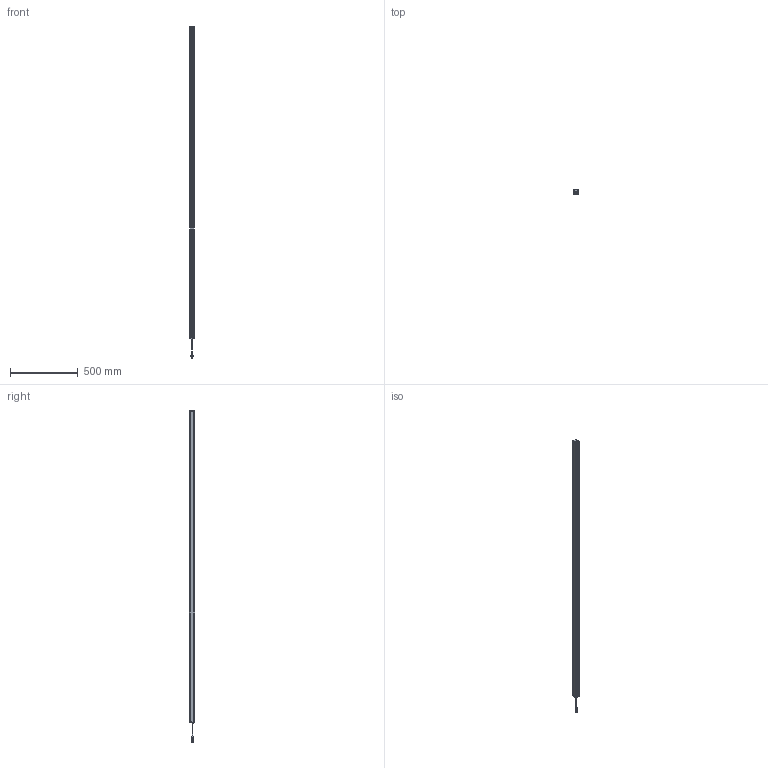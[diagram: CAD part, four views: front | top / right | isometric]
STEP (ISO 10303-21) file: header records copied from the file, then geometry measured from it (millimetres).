
FILE_DESCRIPTION((''),'2;1');
FILE_NAME('PRT0005','2026-04-01T16:06:59',('Administrator'),(''),'CREO PARAMETRIC BY PTC INC, 2016510','CREO PARAMETRIC BY PTC INC, 2016510','');
FILE_SCHEMA(('AUTOMOTIVE_DESIGN { 1 0 10303 214 1 1 1 1 }'));
Length unit declared in the file: millimetre
Products named in the file (1): PRT0005
Bounding box: 33 x 38 x 2441.9 mm (x, y, z)
Surface area: 492201.9 mm2 (no closed solid volume)
Topology: 0 solids, 12 shells, 622 faces, 1755 edges, 1153 vertices
Faces by surface type: plane 301, cylinder 225, torus 32, sphere 32, cone 28, bspline 4
Entity records: 25261 total; most frequent: CARTESIAN_POINT 4741, ORIENTED_EDGE 3422, DIRECTION 3374, EDGE_CURVE 1711, AXIS2_PLACEMENT_3D 1232, VERTEX_POINT 1153, VECTOR 910, LINE 910
